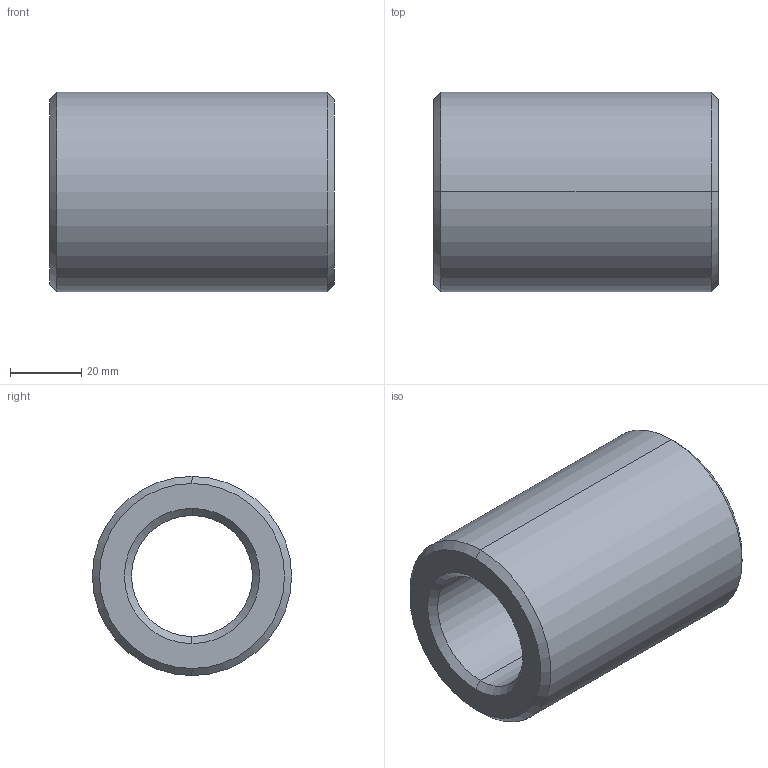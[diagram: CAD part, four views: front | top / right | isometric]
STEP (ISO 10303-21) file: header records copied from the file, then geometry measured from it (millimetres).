
FILE_DESCRIPTION (( 'STEP AP203' ), '1' );
FILE_NAME ('Muffe M36.STEP', '2018-02-22T09:22:13', ( 'install' ), ( 'Hewlett-Packard Company' ), 'SwSTEP 2.0', 'SolidWorks 2017', '' );
FILE_SCHEMA (( 'CONFIG_CONTROL_DESIGN' ));
Length unit declared in the file: millimetre
Products named in the file (1): Muffe M36
Bounding box: 80 x 56 x 56 mm (x, y, z)
Volume: 123276.1 mm3; surface area: 25067.1 mm2
Topology: 1 solids, 1 shells, 14 faces, 28 edges, 16 vertices
Faces by surface type: cone 8, cylinder 4, plane 2
Entity records: 445 total; most frequent: DIRECTION 74, CARTESIAN_POINT 59, ORIENTED_EDGE 56, AXIS2_PLACEMENT_3D 31, EDGE_CURVE 28, VERTEX_POINT 16, CIRCLE 16, EDGE_LOOP 16
